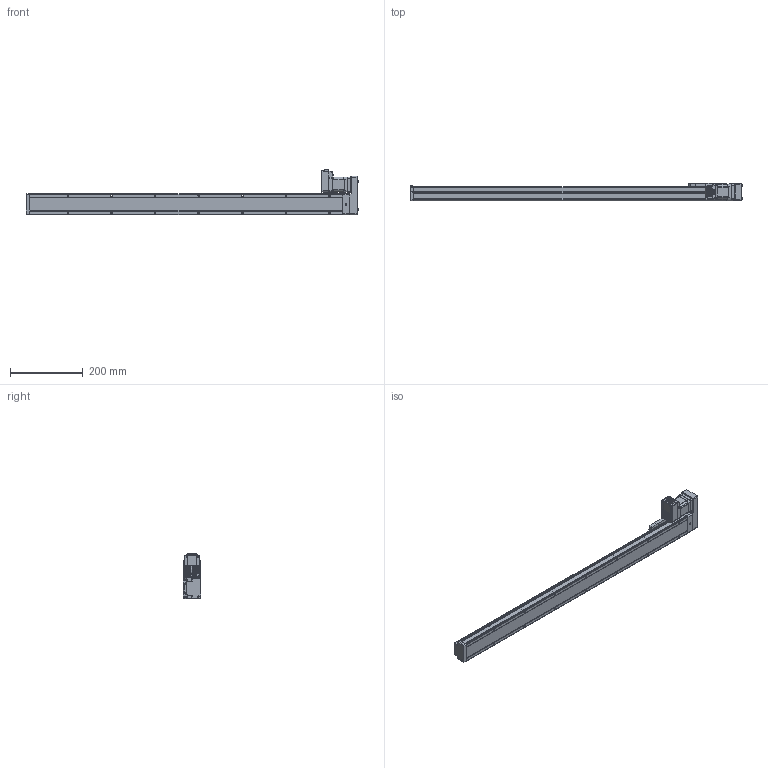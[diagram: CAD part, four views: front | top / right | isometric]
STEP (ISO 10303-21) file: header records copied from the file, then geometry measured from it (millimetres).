
FILE_DESCRIPTION (( 'STEP AP214' ), '1' );
FILE_NAME ('LEFS3(+)-25LNM1□-750-17L.STEP', '2023-05-31T04:57:16', ( '' ), ( '' ), 'SwSTEP 2.0', 'SolidWorks 2019', '' );
FILE_SCHEMA (( 'AUTOMOTIVE_DESIGN' ));
Length unit declared in the file: millimetre
Products named in the file (5): LEFS3(+)-25LNM1□-750-17L; LEFS3(+)-25R(L)NM1仩_MOTOR Flange; LEFS3(+)-25NM1_TABLE; CM3(+)-17L50A; LEFS3(+)-25R(L)NM1仩_BODY_750
Assembly tree (4 placements, depth 2):
  LEFS3(+)-25LNM1□-750-17L
    LEFS3(+)-25R(L)NM1仩_BODY_750
    LEFS3(+)-25NM1_TABLE
    LEFS3(+)-25R(L)NM1仩_MOTOR Flange
    CM3(+)-17L50A
Bounding box: 912.9 x 48 x 125.85 mm (x, y, z)
Volume: 1948897.6 mm3; surface area: 242957.4 mm2
Topology: 5 solids, 5 shells, 1031 faces, 2656 edges, 1676 vertices
Faces by surface type: plane 529, cylinder 330, cone 83, torus 39, bspline 29, sphere 21
Entity records: 42105 total; most frequent: CARTESIAN_POINT 7554, ORIENTED_EDGE 5250, DIRECTION 5084, EDGE_CURVE 2625, AXIS2_PLACEMENT_3D 1718, VERTEX_POINT 1676, VECTOR 1648, LINE 1648
